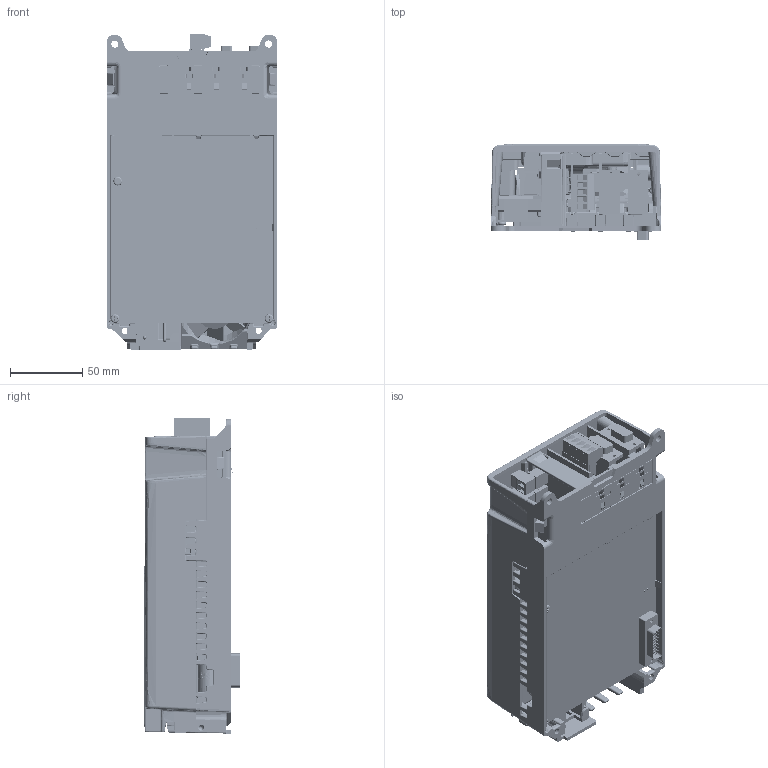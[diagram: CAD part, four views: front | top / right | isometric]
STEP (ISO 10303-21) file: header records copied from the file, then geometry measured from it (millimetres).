
FILE_DESCRIPTION(/* description */ (''),/* implementation_level */ '2;1');
FILE_NAME(/* name */ '70CTC1102280_A.stp',/* time_stamp */ '2016-02-16T09:33:09+02:00',/* author */ (''),/* organization */ (''),/* preprocessor_version */ 'ST-DEVELOPER v14',/* originating_system */ 'SIEMENS PLM Software NX 8.0',/* authorisation */ '');
FILE_SCHEMA (('CONFIG_CONTROL_DESIGN'));
Products named in the file (18): 70CTC1102650_A; 70CPE02451_-; 70CTC1102658_A; 70CTC1102656_A; 70CTC1102646_A; 70CTC1102645_A; 70CTC1102374_A; 70CTC1102375_A; 70CTC1101253_C; 70CTC1101250_B; 70CTC1101251_B; 70CTC1101249_E; 70CTC1101248_D; 70CTC1102372_A; 70CTC1102373_A; 70CTC1102373_A_MODEL; 70CTC1102372_A_MODEL; 70CTC1102280_A
Assembly tree (34 placements, depth 3):
  70CTC1102280_A
    70CTC1101248_D  x2
    70CTC1101249_E  x2
    70CTC1101251_B
    70CTC1101250_B
    70CTC1101253_C  x2
    70CTC1102375_A
    70CTC1102374_A  x2
    70CTC1102372_A_MODEL
      70CTC1102658_A
      70CPE02451_-
    70CTC1102373_A_MODEL
      70CTC1102650_A
    70CTC1102645_A  x2
    70CTC1102646_A  x3
    70CTC1102656_A  x8
    70CTC1102373_A
      70CTC1102650_A
    70CTC1102372_A
      70CTC1102658_A
      70CPE02451_-
Bounding box: 118.06 x 66.18 x 218.33 mm (x, y, z)
Volume: 1215653.7 mm3; surface area: 1046808.9 mm2
Topology: 50 solids, 65 shells, 22677 faces, 61926 edges, 39289 vertices
Faces by surface type: plane 14469, cylinder 4730, bspline 2043, torus 473, extrusion 377, cone 331, sphere 254
Full cylindrical faces by diameter (mm): 0.8 x90, 2.2 x6, 2.4 x8, 3 x16, 3.5 x7, 3.65 x4, 4.5 x2, 4.834 x2, 5 x6, 5.8 x4, 6 x14, 14 x2, 24.8 x2, 49 x2
Entity records: 377408 total; most frequent: CARTESIAN_POINT 102949, ORIENTED_EDGE 59096, DIRECTION 52964, EDGE_CURVE 29548, VECTOR 18882, VERTEX_POINT 18838, LINE 18634, AXIS2_PLACEMENT_3D 17041
